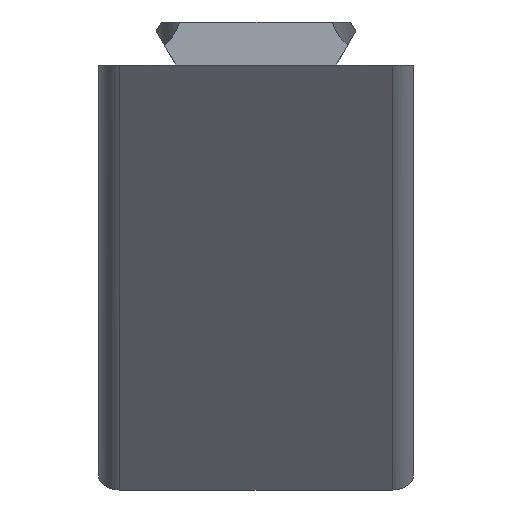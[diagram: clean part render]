
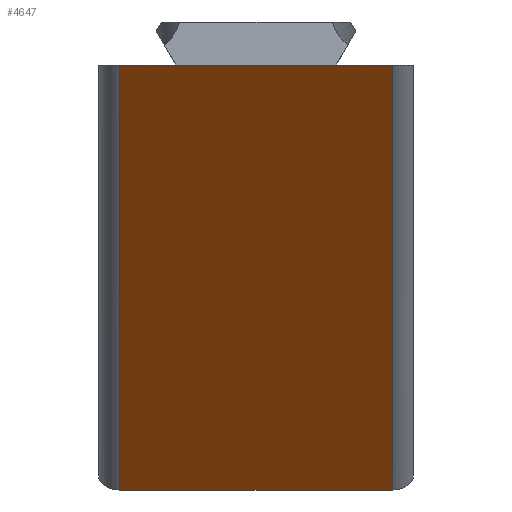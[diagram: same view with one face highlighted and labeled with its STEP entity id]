
A CAD part, left-side view. The second image highlights one B-rep face of the part: STEP entity #4647.
In plain terms, the highlighted planar face has unit normal (-0.743, 0, -0.669).
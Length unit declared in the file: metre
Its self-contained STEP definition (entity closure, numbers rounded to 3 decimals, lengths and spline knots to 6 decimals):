
#618=ORIENTED_EDGE('',*,*,#1788,.T.);
#619=ORIENTED_EDGE('',*,*,#1989,.T.);
#620=ORIENTED_EDGE('',*,*,#1742,.F.);
#621=ORIENTED_EDGE('',*,*,#1990,.T.);
#622=ORIENTED_EDGE('',*,*,#1804,.T.);
#623=ORIENTED_EDGE('',*,*,#1984,.T.);
#1742=EDGE_CURVE('',#2443,#2444,#2910,.T.);
#1788=EDGE_CURVE('',#2490,#2489,#2933,.T.);
#1804=EDGE_CURVE('',#2506,#2505,#2943,.T.);
#1984=EDGE_CURVE('',#2505,#2490,#3049,.T.);
#1989=EDGE_CURVE('',#2489,#2444,#3050,.T.);
#1990=EDGE_CURVE('',#2443,#2506,#3051,.F.);
#2443=VERTEX_POINT('',#6436);
#2444=VERTEX_POINT('',#6438);
#2489=VERTEX_POINT('',#6532);
#2490=VERTEX_POINT('',#6534);
#2505=VERTEX_POINT('',#6564);
#2506=VERTEX_POINT('',#6566);
#2910=LINE('',#6437,#3395);
#2933=LINE('',#6533,#3418);
#2943=LINE('',#6565,#3428);
#3049=LINE('',#7001,#3534);
#3050=LINE('',#7012,#3535);
#3051=LINE('',#7013,#3536);
#3395=VECTOR('',#5260,1.);
#3418=VECTOR('',#5337,1.);
#3428=VECTOR('',#5359,1.);
#3534=VECTOR('',#5559,1.);
#3535=VECTOR('',#5576,1.);
#3536=VECTOR('',#5577,1.);
#3919=EDGE_LOOP('',(#618,#619,#620,#621,#622,#623));
#4216=FACE_BOUND('',#3919,.T.);
#4486=PLANE('',#4991);
#4647=ADVANCED_FACE('',(#4216),#4486,.F.);
#4991=AXIS2_PLACEMENT_3D('',#7011,#5574,#5575);
#5260=DIRECTION('',(0.,1.,0.));
#5337=DIRECTION('',(0.,1.,0.));
#5359=DIRECTION('',(0.,1.,0.));
#5559=DIRECTION('',(0.,1.,0.));
#5574=DIRECTION('',(0.743,0.,0.669));
#5575=DIRECTION('',(0.669,0.,-0.743));
#5576=DIRECTION('',(0.669,0.,-0.743));
#5577=DIRECTION('',(0.669,0.,-0.743));
#6436=CARTESIAN_POINT('',(0.036482,-0.013,-0.040518));
#6437=CARTESIAN_POINT('',(0.036482,-0.015,-0.040518));
#6438=CARTESIAN_POINT('',(0.036482,0.013,-0.040518));
#6532=CARTESIAN_POINT('',(0.,0.013,0.));
#6533=CARTESIAN_POINT('',(0.,-0.015,0.));
#6534=CARTESIAN_POINT('',(0.,0.007695,0.));
#6564=CARTESIAN_POINT('',(0.,-0.007695,0.));
#6565=CARTESIAN_POINT('',(0.,-0.015,0.));
#6566=CARTESIAN_POINT('',(0.,-0.013,0.));
#7001=CARTESIAN_POINT('',(0.,0.,0.));
#7011=CARTESIAN_POINT('',(0.018241,-0.015,-0.020259));
#7012=CARTESIAN_POINT('',(0.018241,0.013,-0.020259));
#7013=CARTESIAN_POINT('',(0.,-0.013,0.));
